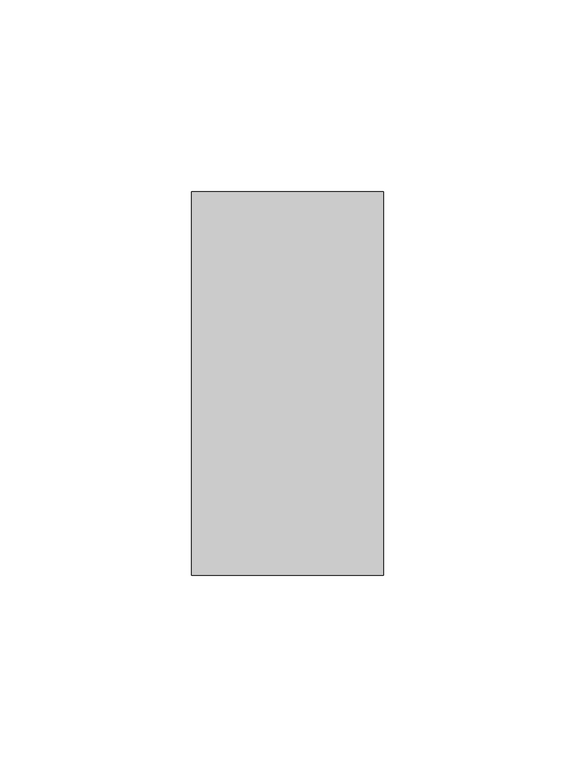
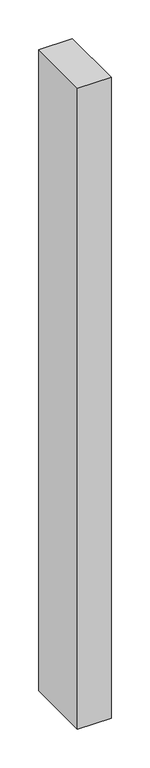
"""IFC4 building model written with IfcOpenShell, lengths in millimetres: member geometry, Прямоугольный импост : 50х100."""

from ifc_helpers import new_model, si_unit, frame, origin, place, context, project, spatial, polyline, outline, extrude, source, transform, mapped, element, save


def member_e49218c7(model_context):
    return source(origin(), model_context, "Body", "SweptSolid", [
        extrude(outline(polyline([(25.0, 50.0), (25.0, -50.0), (-25.0, -50.0), (-25.0, 50.0), (25.0, 50.0)])), frame((0.0, 0.0, -1010.0), z_axis=(0.0, 0.0, 1.0), x_axis=(1.0, 0.0, 0.0)), (0.0, 0.0, 1.0), 1010.0),
    ])


if __name__ == "__main__":
    model = new_model("IFC4")
    model_context = context("Model", 3, world=origin())
    ifc_project = project(units=[si_unit("LENGTHUNIT", "METRE", prefix="MILLI")], contexts=[model_context])
    site = spatial("IfcSite", under=ifc_project)
    building = spatial("IfcBuilding", under=site)
    placement = place(None, origin())
    member_shape = member_e49218c7(model_context)
    element("IfcMember", 1, ObjectType="Прямоугольный импост : 50х100", at=placement, inside=building, context=model_context, shape_type="MappedRepresentation", body=[
        mapped(member_shape, transform((0.0, 0.0, 0.0), x_axis=(1.0, 0.0, 0.0), y_axis=(0.0, 1.0, 0.0), z_axis=(0.0, 0.0, 1.0))),
    ])
    save(model, "model.ifc")
